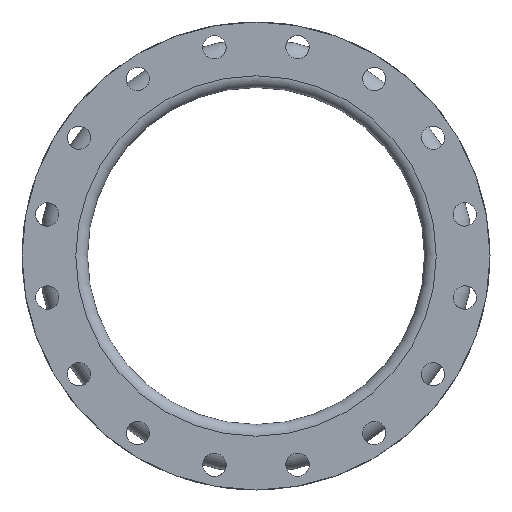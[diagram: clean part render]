
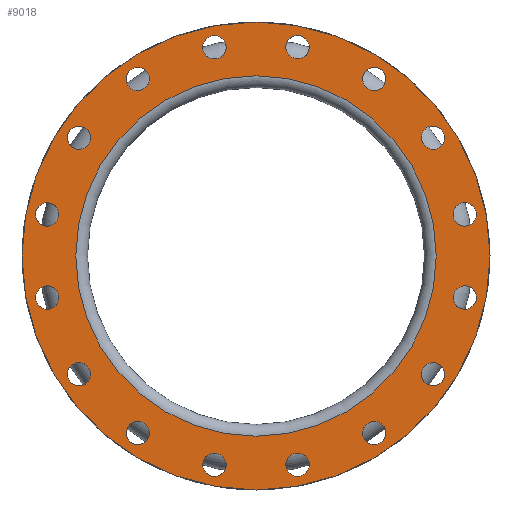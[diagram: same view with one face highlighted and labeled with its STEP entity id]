
A CAD part, left-side view. The second image highlights one B-rep face of the part: STEP entity #9018.
In plain terms, the highlighted planar face has unit normal (-1, 0, 0).
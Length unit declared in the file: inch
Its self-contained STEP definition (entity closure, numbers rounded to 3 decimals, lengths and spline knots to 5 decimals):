
#157=FACE_BOUND('',#1529,.T.);
#158=FACE_BOUND('',#1530,.T.);
#159=FACE_BOUND('',#1531,.T.);
#160=FACE_BOUND('',#1532,.T.);
#161=FACE_BOUND('',#1533,.T.);
#162=FACE_BOUND('',#1534,.T.);
#163=FACE_BOUND('',#1535,.T.);
#164=FACE_BOUND('',#1536,.T.);
#165=FACE_BOUND('',#1537,.T.);
#166=FACE_BOUND('',#1538,.T.);
#167=FACE_BOUND('',#1539,.T.);
#168=FACE_BOUND('',#1540,.T.);
#169=FACE_BOUND('',#1541,.T.);
#170=FACE_BOUND('',#1542,.T.);
#171=FACE_BOUND('',#1543,.T.);
#172=FACE_BOUND('',#1544,.T.);
#173=FACE_BOUND('',#1545,.T.);
#921=FACE_OUTER_BOUND('',#1528,.T.);
#1528=EDGE_LOOP('',(#6910));
#1529=EDGE_LOOP('',(#6911));
#1530=EDGE_LOOP('',(#6912));
#1531=EDGE_LOOP('',(#6913));
#1532=EDGE_LOOP('',(#6914));
#1533=EDGE_LOOP('',(#6915));
#1534=EDGE_LOOP('',(#6916));
#1535=EDGE_LOOP('',(#6917));
#1536=EDGE_LOOP('',(#6918));
#1537=EDGE_LOOP('',(#6919));
#1538=EDGE_LOOP('',(#6920));
#1539=EDGE_LOOP('',(#6921));
#1540=EDGE_LOOP('',(#6922));
#1541=EDGE_LOOP('',(#6923));
#1542=EDGE_LOOP('',(#6924));
#1543=EDGE_LOOP('',(#6925));
#1544=EDGE_LOOP('',(#6926));
#1545=EDGE_LOOP('',(#6927));
#3155=CIRCLE('',#9807,0.625);
#3157=CIRCLE('',#9810,0.625);
#3159=CIRCLE('',#9813,0.625);
#3161=CIRCLE('',#9816,0.625);
#3163=CIRCLE('',#9819,0.625);
#3165=CIRCLE('',#9822,0.625);
#3167=CIRCLE('',#9825,0.625);
#3169=CIRCLE('',#9828,0.625);
#3171=CIRCLE('',#9831,0.625);
#3173=CIRCLE('',#9834,0.625);
#3175=CIRCLE('',#9837,0.625);
#3177=CIRCLE('',#9840,0.625);
#3179=CIRCLE('',#9843,0.625);
#3181=CIRCLE('',#9846,0.625);
#3183=CIRCLE('',#9849,0.625);
#3185=CIRCLE('',#9852,0.625);
#3233=CIRCLE('',#9931,9.625);
#3234=CIRCLE('',#9933,12.5);
#3981=VERTEX_POINT('',#14683);
#3983=VERTEX_POINT('',#14688);
#3985=VERTEX_POINT('',#14693);
#3987=VERTEX_POINT('',#14698);
#3989=VERTEX_POINT('',#14703);
#3991=VERTEX_POINT('',#14708);
#3993=VERTEX_POINT('',#14713);
#3995=VERTEX_POINT('',#14718);
#3997=VERTEX_POINT('',#14723);
#3999=VERTEX_POINT('',#14728);
#4001=VERTEX_POINT('',#14733);
#4003=VERTEX_POINT('',#14738);
#4005=VERTEX_POINT('',#14743);
#4007=VERTEX_POINT('',#14748);
#4009=VERTEX_POINT('',#14753);
#4011=VERTEX_POINT('',#14758);
#4059=VERTEX_POINT('',#14885);
#4060=VERTEX_POINT('',#14888);
#5031=EDGE_CURVE('',#3981,#3981,#3155,.T.);
#5033=EDGE_CURVE('',#3983,#3983,#3157,.T.);
#5035=EDGE_CURVE('',#3985,#3985,#3159,.T.);
#5037=EDGE_CURVE('',#3987,#3987,#3161,.T.);
#5039=EDGE_CURVE('',#3989,#3989,#3163,.T.);
#5041=EDGE_CURVE('',#3991,#3991,#3165,.T.);
#5043=EDGE_CURVE('',#3993,#3993,#3167,.T.);
#5045=EDGE_CURVE('',#3995,#3995,#3169,.T.);
#5047=EDGE_CURVE('',#3997,#3997,#3171,.T.);
#5049=EDGE_CURVE('',#3999,#3999,#3173,.T.);
#5051=EDGE_CURVE('',#4001,#4001,#3175,.T.);
#5053=EDGE_CURVE('',#4003,#4003,#3177,.T.);
#5055=EDGE_CURVE('',#4005,#4005,#3179,.T.);
#5057=EDGE_CURVE('',#4007,#4007,#3181,.T.);
#5059=EDGE_CURVE('',#4009,#4009,#3183,.T.);
#5061=EDGE_CURVE('',#4011,#4011,#3185,.T.);
#5109=EDGE_CURVE('',#4059,#4059,#3233,.T.);
#5110=EDGE_CURVE('',#4060,#4060,#3234,.T.);
#6910=ORIENTED_EDGE('',*,*,#5110,.F.);
#6911=ORIENTED_EDGE('',*,*,#5109,.T.);
#6912=ORIENTED_EDGE('',*,*,#5031,.T.);
#6913=ORIENTED_EDGE('',*,*,#5033,.T.);
#6914=ORIENTED_EDGE('',*,*,#5035,.T.);
#6915=ORIENTED_EDGE('',*,*,#5037,.T.);
#6916=ORIENTED_EDGE('',*,*,#5039,.T.);
#6917=ORIENTED_EDGE('',*,*,#5041,.T.);
#6918=ORIENTED_EDGE('',*,*,#5043,.T.);
#6919=ORIENTED_EDGE('',*,*,#5045,.T.);
#6920=ORIENTED_EDGE('',*,*,#5047,.T.);
#6921=ORIENTED_EDGE('',*,*,#5049,.T.);
#6922=ORIENTED_EDGE('',*,*,#5051,.T.);
#6923=ORIENTED_EDGE('',*,*,#5053,.T.);
#6924=ORIENTED_EDGE('',*,*,#5055,.T.);
#6925=ORIENTED_EDGE('',*,*,#5057,.T.);
#6926=ORIENTED_EDGE('',*,*,#5059,.T.);
#6927=ORIENTED_EDGE('',*,*,#5061,.T.);
#8204=PLANE('',#9932);
#9018=ADVANCED_FACE('',(#921,#157,#158,#159,#160,#161,#162,#163,#164,#165,
#166,#167,#168,#169,#170,#171,#172,#173),#8204,.T.);
#9807=AXIS2_PLACEMENT_3D('',#14684,#11853,#11854);
#9810=AXIS2_PLACEMENT_3D('',#14689,#11859,#11860);
#9813=AXIS2_PLACEMENT_3D('',#14694,#11865,#11866);
#9816=AXIS2_PLACEMENT_3D('',#14699,#11871,#11872);
#9819=AXIS2_PLACEMENT_3D('',#14704,#11877,#11878);
#9822=AXIS2_PLACEMENT_3D('',#14709,#11883,#11884);
#9825=AXIS2_PLACEMENT_3D('',#14714,#11889,#11890);
#9828=AXIS2_PLACEMENT_3D('',#14719,#11895,#11896);
#9831=AXIS2_PLACEMENT_3D('',#14724,#11901,#11902);
#9834=AXIS2_PLACEMENT_3D('',#14729,#11907,#11908);
#9837=AXIS2_PLACEMENT_3D('',#14734,#11913,#11914);
#9840=AXIS2_PLACEMENT_3D('',#14739,#11919,#11920);
#9843=AXIS2_PLACEMENT_3D('',#14744,#11925,#11926);
#9846=AXIS2_PLACEMENT_3D('',#14749,#11931,#11932);
#9849=AXIS2_PLACEMENT_3D('',#14754,#11937,#11938);
#9852=AXIS2_PLACEMENT_3D('',#14759,#11943,#11944);
#9931=AXIS2_PLACEMENT_3D('',#14886,#12101,#12102);
#9932=AXIS2_PLACEMENT_3D('',#14887,#12103,#12104);
#9933=AXIS2_PLACEMENT_3D('',#14889,#12105,#12106);
#11853=DIRECTION('center_axis',(1.,0.,0.));
#11854=DIRECTION('ref_axis',(0.,-0.924,0.383));
#11859=DIRECTION('center_axis',(1.,0.,0.));
#11860=DIRECTION('ref_axis',(0.,-0.707,0.707));
#11865=DIRECTION('center_axis',(1.,0.,0.));
#11866=DIRECTION('ref_axis',(0.,-0.383,0.924));
#11871=DIRECTION('center_axis',(1.,0.,0.));
#11872=DIRECTION('ref_axis',(0.,0.,
1.));
#11877=DIRECTION('center_axis',(1.,0.,0.));
#11878=DIRECTION('ref_axis',(0.,0.383,0.924));
#11883=DIRECTION('center_axis',(1.,0.,0.));
#11884=DIRECTION('ref_axis',(0.,0.707,0.707));
#11889=DIRECTION('center_axis',(1.,0.,0.));
#11890=DIRECTION('ref_axis',(0.,0.924,0.383));
#11895=DIRECTION('center_axis',(1.,0.,0.));
#11896=DIRECTION('ref_axis',(0.,1.,0.));
#11901=DIRECTION('center_axis',(1.,0.,0.));
#11902=DIRECTION('ref_axis',(0.,0.924,-0.383));
#11907=DIRECTION('center_axis',(1.,0.,0.));
#11908=DIRECTION('ref_axis',(0.,0.707,-0.707));
#11913=DIRECTION('center_axis',(1.,0.,0.));
#11914=DIRECTION('ref_axis',(0.,0.383,-0.924));
#11919=DIRECTION('center_axis',(1.,0.,0.));
#11920=DIRECTION('ref_axis',(0.,0.,
-1.));
#11925=DIRECTION('center_axis',(1.,0.,0.));
#11926=DIRECTION('ref_axis',(0.,-0.383,-0.924));
#11931=DIRECTION('center_axis',(1.,0.,0.));
#11932=DIRECTION('ref_axis',(0.,-0.707,-0.707));
#11937=DIRECTION('center_axis',(1.,0.,0.));
#11938=DIRECTION('ref_axis',(0.,-0.924,-0.383));
#11943=DIRECTION('center_axis',(1.,0.,0.));
#11944=DIRECTION('ref_axis',(0.,-1.,0.));
#12101=DIRECTION('center_axis',(1.,0.,0.));
#12102=DIRECTION('ref_axis',(0.,0.,-1.));
#12103=DIRECTION('center_axis',(-1.,0.,0.));
#12104=DIRECTION('ref_axis',(0.,0.,1.));
#12105=DIRECTION('center_axis',(1.,0.,0.));
#12106=DIRECTION('ref_axis',(0.,0.,-1.));
#14683=CARTESIAN_POINT('',(-8.,10.03539,-6.55879));
#14684=CARTESIAN_POINT('Origin',(-8.,9.45797,-6.31961));
#14688=CARTESIAN_POINT('',(-8.,6.76155,-9.89991));
#14689=CARTESIAN_POINT('Origin',(-8.,6.31961,-9.45797));
#14693=CARTESIAN_POINT('',(-8.,2.45833,-11.73386));
#14694=CARTESIAN_POINT('Origin',(-8.,2.21915,-11.15643));
#14698=CARTESIAN_POINT('',(-8.,-2.21915,-11.78143));
#14699=CARTESIAN_POINT('Origin',(-8.,-2.21915,-11.15643));
#14703=CARTESIAN_POINT('',(-8.,-6.55879,-10.03539));
#14704=CARTESIAN_POINT('Origin',(-8.,-6.31961,-9.45797));
#14708=CARTESIAN_POINT('',(-8.,-9.89991,-6.76155));
#14709=CARTESIAN_POINT('Origin',(-8.,-9.45797,-6.31961));
#14713=CARTESIAN_POINT('',(-8.,-11.73386,-2.45833));
#14714=CARTESIAN_POINT('Origin',(-8.,-11.15643,-2.21915));
#14718=CARTESIAN_POINT('',(-8.,-11.78143,2.21915));
#14719=CARTESIAN_POINT('Origin',(-8.,-11.15643,2.21915));
#14723=CARTESIAN_POINT('',(-8.,-10.03539,6.55879));
#14724=CARTESIAN_POINT('Origin',(-8.,-9.45797,6.31961));
#14728=CARTESIAN_POINT('',(-8.,-6.76155,9.89991));
#14729=CARTESIAN_POINT('Origin',(-8.,-6.31961,9.45797));
#14733=CARTESIAN_POINT('',(-8.,-2.45833,11.73386));
#14734=CARTESIAN_POINT('Origin',(-8.,-2.21915,11.15643));
#14738=CARTESIAN_POINT('',(-8.,2.21915,11.78143));
#14739=CARTESIAN_POINT('Origin',(-8.,2.21915,11.15643));
#14743=CARTESIAN_POINT('',(-8.,6.55879,10.03539));
#14744=CARTESIAN_POINT('Origin',(-8.,6.31961,9.45797));
#14748=CARTESIAN_POINT('',(-8.,9.89991,6.76155));
#14749=CARTESIAN_POINT('Origin',(-8.,9.45797,6.31961));
#14753=CARTESIAN_POINT('',(-8.,11.73386,2.45833));
#14754=CARTESIAN_POINT('Origin',(-8.,11.15643,2.21915));
#14758=CARTESIAN_POINT('',(-8.,11.78143,-2.21915));
#14759=CARTESIAN_POINT('Origin',(-8.,11.15643,-2.21915));
#14885=CARTESIAN_POINT('',(-8.,9.625,0.));
#14886=CARTESIAN_POINT('Origin',(-8.,0.,0.));
#14887=CARTESIAN_POINT('Origin',(-8.,12.5,0.));
#14888=CARTESIAN_POINT('',(-8.,12.5,0.));
#14889=CARTESIAN_POINT('Origin',(-8.,0.,0.));
